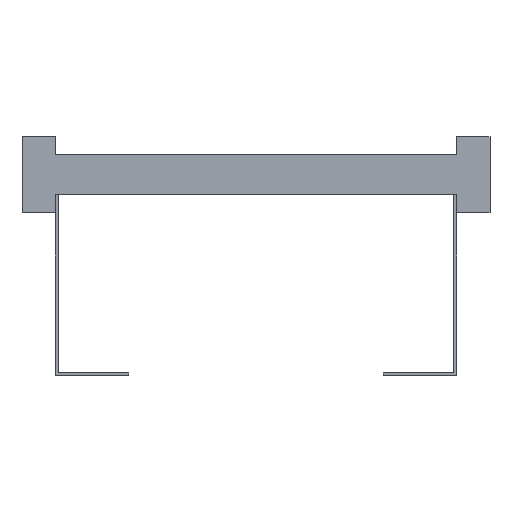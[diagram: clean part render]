
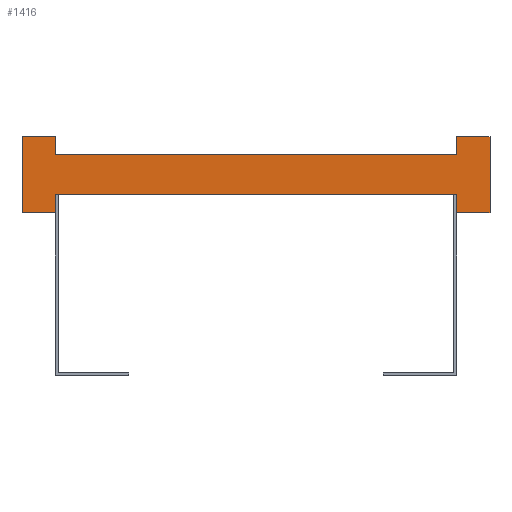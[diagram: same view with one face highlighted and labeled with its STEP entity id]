
A CAD part, front view. The second image highlights one B-rep face of the part: STEP entity #1416.
In plain terms, the highlighted planar face has unit normal (0, -1, 0).
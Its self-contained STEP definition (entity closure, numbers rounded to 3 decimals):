
#113=DIRECTION('',(0.,0.,1.));
#114=VECTOR('',#113,13.5);
#115=CARTESIAN_POINT('',(150.,0.,-28.5));
#116=LINE('',#115,#114);
#117=DIRECTION('',(0.,0.,-1.));
#118=VECTOR('',#117,13.5);
#119=CARTESIAN_POINT('',(-150.,0.,-15.));
#120=LINE('',#119,#118);
#121=DIRECTION('',(-1.,0.,0.));
#122=VECTOR('',#121,25.);
#123=CARTESIAN_POINT('',(-150.,0.,-28.5));
#124=LINE('',#123,#122);
#125=DIRECTION('',(0.,0.,1.));
#126=VECTOR('',#125,57.);
#127=CARTESIAN_POINT('',(-175.,0.,-28.5));
#128=LINE('',#127,#126);
#129=DIRECTION('',(1.,0.,0.));
#130=VECTOR('',#129,25.);
#131=CARTESIAN_POINT('',(-175.,0.,28.5));
#132=LINE('',#131,#130);
#133=DIRECTION('',(0.,0.,-1.));
#134=VECTOR('',#133,13.5);
#135=CARTESIAN_POINT('',(-150.,0.,28.5));
#136=LINE('',#135,#134);
#137=DIRECTION('',(0.,0.,1.));
#138=VECTOR('',#137,13.5);
#139=CARTESIAN_POINT('',(150.,0.,15.));
#140=LINE('',#139,#138);
#141=DIRECTION('',(1.,0.,0.));
#142=VECTOR('',#141,25.);
#143=CARTESIAN_POINT('',(150.,0.,28.5));
#144=LINE('',#143,#142);
#145=DIRECTION('',(0.,0.,-1.));
#146=VECTOR('',#145,57.);
#147=CARTESIAN_POINT('',(175.,0.,28.5));
#148=LINE('',#147,#146);
#149=DIRECTION('',(-1.,0.,0.));
#150=VECTOR('',#149,25.);
#151=CARTESIAN_POINT('',(175.,0.,-28.5));
#152=LINE('',#151,#150);
#1057=DIRECTION('',(1.,0.,0.));
#1058=VECTOR('',#1057,300.);
#1059=CARTESIAN_POINT('',(-150.,0.,-15.));
#1060=LINE('',#1059,#1058);
#1069=DIRECTION('',(1.,0.,0.));
#1070=VECTOR('',#1069,300.);
#1071=CARTESIAN_POINT('',(-150.,0.,15.));
#1072=LINE('',#1071,#1070);
#1073=CARTESIAN_POINT('',(-175.,0.,28.5));
#1074=CARTESIAN_POINT('',(-150.,0.,28.5));
#1075=VERTEX_POINT('',#1073);
#1076=VERTEX_POINT('',#1074);
#1077=CARTESIAN_POINT('',(-150.,0.,-28.5));
#1078=CARTESIAN_POINT('',(-175.,0.,-28.5));
#1079=VERTEX_POINT('',#1077);
#1080=VERTEX_POINT('',#1078);
#1081=CARTESIAN_POINT('',(175.,0.,28.5));
#1082=CARTESIAN_POINT('',(175.,0.,-28.5));
#1083=VERTEX_POINT('',#1081);
#1084=VERTEX_POINT('',#1082);
#1085=CARTESIAN_POINT('',(150.,0.,-28.5));
#1086=VERTEX_POINT('',#1085);
#1087=CARTESIAN_POINT('',(150.,0.,28.5));
#1088=VERTEX_POINT('',#1087);
#1105=CARTESIAN_POINT('',(-150.,0.,-15.));
#1107=VERTEX_POINT('',#1105);
#1109=CARTESIAN_POINT('',(-150.,0.,15.));
#1111=VERTEX_POINT('',#1109);
#1113=CARTESIAN_POINT('',(150.,0.,-15.));
#1115=VERTEX_POINT('',#1113);
#1117=CARTESIAN_POINT('',(150.,0.,15.));
#1119=VERTEX_POINT('',#1117);
#1385=CARTESIAN_POINT('',(0.,0.,0.));
#1386=DIRECTION('',(0.,1.,0.));
#1387=DIRECTION('',(1.,0.,0.));
#1388=AXIS2_PLACEMENT_3D('',#1385,#1386,#1387);
#1389=PLANE('',#1388);
#1391=ORIENTED_EDGE('',*,*,#1390,.T.);
#1393=ORIENTED_EDGE('',*,*,#1392,.F.);
#1395=ORIENTED_EDGE('',*,*,#1394,.T.);
#1397=ORIENTED_EDGE('',*,*,#1396,.T.);
#1399=ORIENTED_EDGE('',*,*,#1398,.T.);
#1401=ORIENTED_EDGE('',*,*,#1400,.T.);
#1403=ORIENTED_EDGE('',*,*,#1402,.T.);
#1405=ORIENTED_EDGE('',*,*,#1404,.T.);
#1407=ORIENTED_EDGE('',*,*,#1406,.T.);
#1409=ORIENTED_EDGE('',*,*,#1408,.T.);
#1411=ORIENTED_EDGE('',*,*,#1410,.T.);
#1413=ORIENTED_EDGE('',*,*,#1412,.T.);
#1414=EDGE_LOOP('',(#1391,#1393,#1395,#1397,#1399,#1401,#1403,#1405,#1407,#1409,
#1411,#1413));
#1415=FACE_OUTER_BOUND('',#1414,.F.);
#1390=EDGE_CURVE('',#1086,#1115,#116,.T.);
#1392=EDGE_CURVE('',#1107,#1115,#1060,.T.);
#1394=EDGE_CURVE('',#1107,#1079,#120,.T.);
#1396=EDGE_CURVE('',#1079,#1080,#124,.T.);
#1398=EDGE_CURVE('',#1080,#1075,#128,.T.);
#1400=EDGE_CURVE('',#1075,#1076,#132,.T.);
#1402=EDGE_CURVE('',#1076,#1111,#136,.T.);
#1404=EDGE_CURVE('',#1111,#1119,#1072,.T.);
#1406=EDGE_CURVE('',#1119,#1088,#140,.T.);
#1408=EDGE_CURVE('',#1088,#1083,#144,.T.);
#1410=EDGE_CURVE('',#1083,#1084,#148,.T.);
#1412=EDGE_CURVE('',#1084,#1086,#152,.T.);
#1416=ADVANCED_FACE('',(#1415),#1389,.F.);
